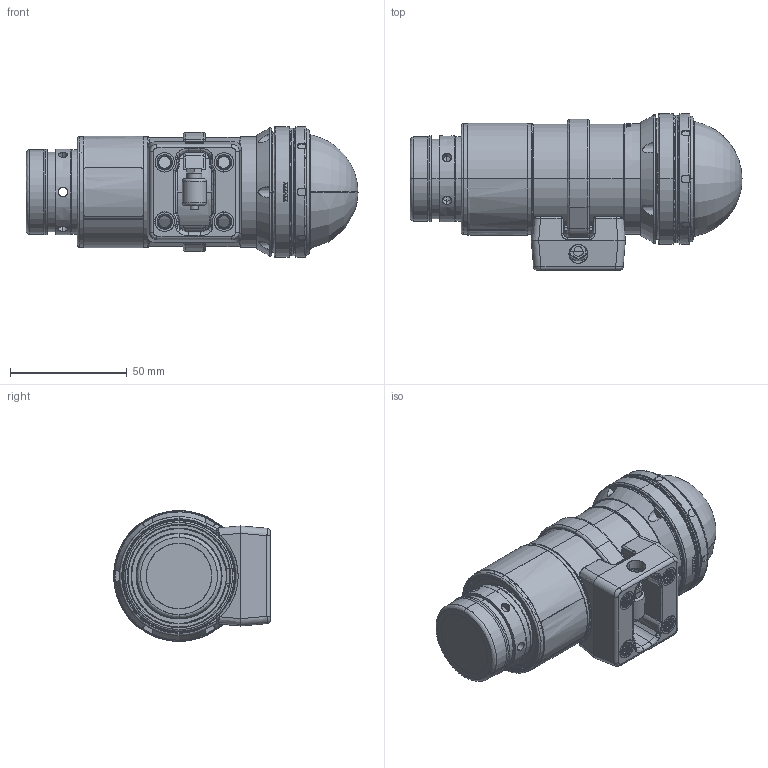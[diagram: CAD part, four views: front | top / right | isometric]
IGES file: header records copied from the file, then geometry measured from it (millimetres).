
Start section: SolidWorks IGES file using analytic representation for surfaces
Global section: file name: C:\users\hector.duran\Work Folders\Desktop\Temp\SWSC-X070-X-TI-X-SRSEANETS (IGES).IGS; native system: SolidWorks 2023; preprocessor: SolidWorks 2023; author: hector.duran; date: 240617.143112; units: millimetre
Bounding box: 142.22 x 67.13 x 56 mm (x, y, z)
Surface area: 44992.1 mm2 (no closed solid volume)
Topology: 0 solids, 0 shells, 654 faces, 10983 edges, 10965 vertices
Faces by surface type: revolution 346, bspline 308
